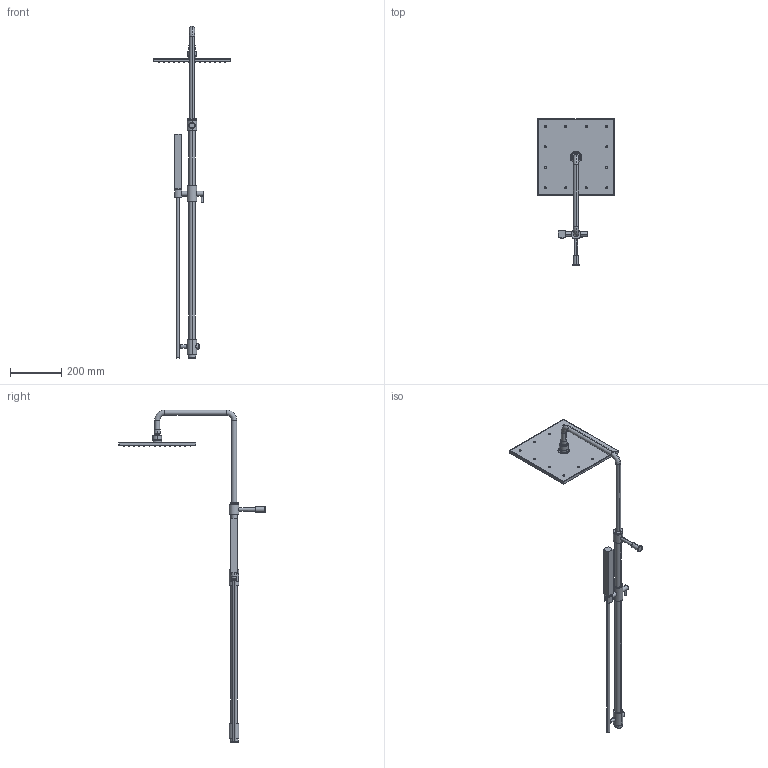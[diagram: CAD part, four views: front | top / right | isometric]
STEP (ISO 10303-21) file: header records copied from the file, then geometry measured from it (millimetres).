
FILE_DESCRIPTION((''),'2;1');
FILE_NAME('F2200L_FILE_3D','2013-11-18T',('ivanv'),(''),'PRO/ENGINEER BY PARAMETRIC TECHNOLOGY CORPORATION, 2012130','PRO/ENGINEER BY PARAMETRIC TECHNOLOGY CORPORATION, 2012130','');
FILE_SCHEMA(('CONFIG_CONTROL_DESIGN'));
Length unit declared in the file: millimetre
Products named in the file (1): F2200L_FILE_3D
Bounding box: 300 x 571.5 x 1295.15 mm (x, y, z)
Volume: 2164689 mm3; surface area: 416259.9 mm2
Topology: 1 solids, 4 shells, 1806 faces, 3713 edges, 2434 vertices
Faces by surface type: cylinder 1002, plane 734, torus 34, sphere 16, cone 16, bspline 4
Entity records: 49746 total; most frequent: CARTESIAN_POINT 9395, DIRECTION 9316, ORIENTED_EDGE 7422, AXIS2_PLACEMENT_3D 3865, EDGE_CURVE 3711, VERTEX_POINT 2434, EDGE_LOOP 2325, CIRCLE 2065
